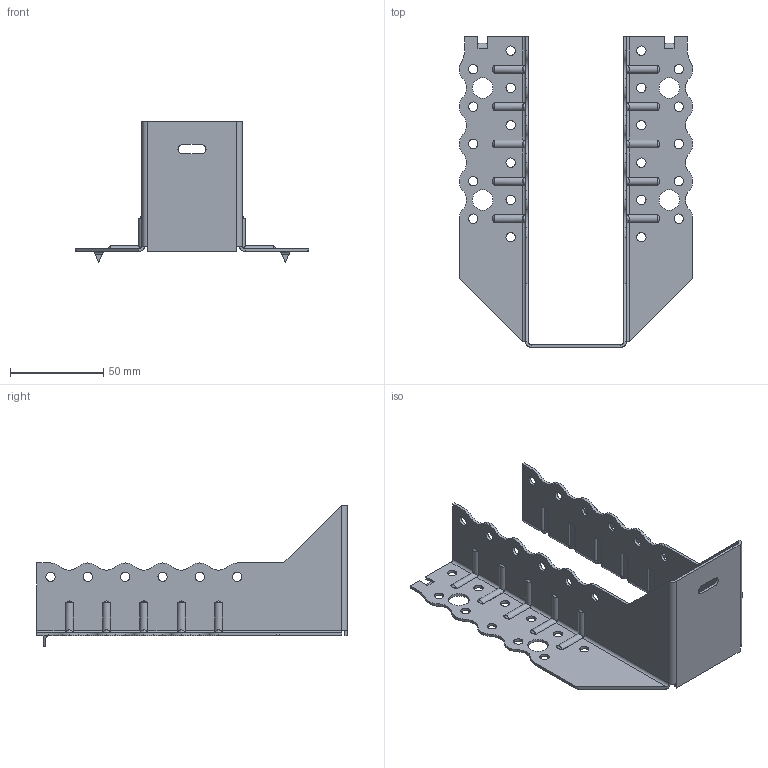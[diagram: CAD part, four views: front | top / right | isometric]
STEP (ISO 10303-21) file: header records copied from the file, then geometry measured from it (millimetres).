
FILE_DESCRIPTION (( 'STEP AP203' ), '1' );
FILE_NAME ('30615TOP.STEP', '2021-04-07T11:02:29', ( '' ), ( '' ), 'SwSTEP 2.0', 'SolidWorks 2013', '' );
FILE_SCHEMA (( 'CONFIG_CONTROL_DESIGN' ));
Length unit declared in the file: millimetre
Products named in the file (1): 30615TOP
Bounding box: 125 x 166.5 x 76 mm (x, y, z)
Volume: 38819.6 mm3; surface area: 55196.7 mm2
Topology: 1 solids, 1 shells, 428 faces, 1154 edges, 728 vertices
Faces by surface type: cylinder 269, plane 119, torus 20, bspline 20
Entity records: 15880 total; most frequent: CARTESIAN_POINT 5007, ORIENTED_EDGE 2308, DIRECTION 2228, EDGE_CURVE 1154, AXIS2_PLACEMENT_3D 813, VERTEX_POINT 728, VECTOR 602, LINE 602
